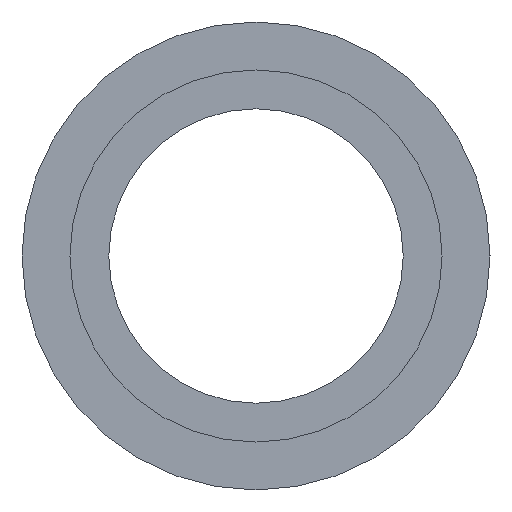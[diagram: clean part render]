
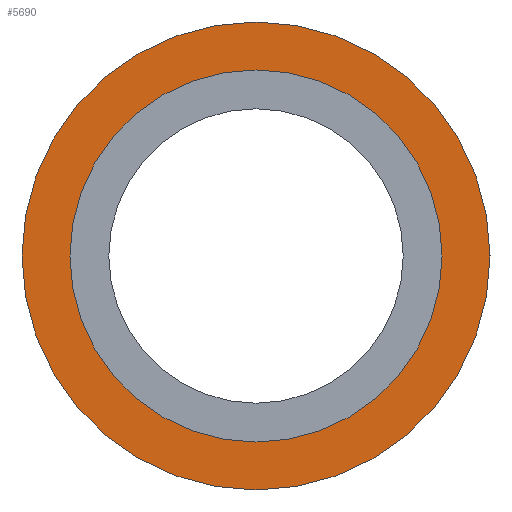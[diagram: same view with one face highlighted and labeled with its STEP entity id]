
A CAD part, left-side view. The second image highlights one B-rep face of the part: STEP entity #5690.
In plain terms, the highlighted planar face has unit normal (-1, 0, 0).
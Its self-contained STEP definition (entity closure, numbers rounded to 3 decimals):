
#100=CARTESIAN_POINT('',(62.312,83.567,0.));
#110=VERTEX_POINT('',#100);
#330=CARTESIAN_POINT('',(62.312,21.567,0.));
#340=VERTEX_POINT('',#330);
#370=CARTESIAN_POINT('',(62.312,52.567,0.));
#380=DIRECTION('',(1.,0.,0.));
#390=DIRECTION('',(0.,-1.,0.));
#400=AXIS2_PLACEMENT_3D('',#370,#380,#390);
#410=CIRCLE('',#400,31.);
#420=EDGE_CURVE('',#110,#340,#410,.T.);
#1700=CARTESIAN_POINT('',(62.312,77.217,0.));
#1710=VERTEX_POINT('',#1700);
#1790=CARTESIAN_POINT('',(62.312,27.917,0.));
#1800=VERTEX_POINT('',#1790);
#1830=CARTESIAN_POINT('',(62.312,52.567,0.));
#1840=DIRECTION('',(-1.,-0.,0.));
#1850=DIRECTION('',(0.,-1.,0.));
#1860=AXIS2_PLACEMENT_3D('',#1830,#1840,#1850);
#1870=CIRCLE('',#1860,24.65);
#1880=EDGE_CURVE('',#1710,#1800,#1870,.T.);
#5540=CARTESIAN_POINT('',(62.312,80.954,0.));
#5550=DIRECTION('',(-1.,0.,0.));
#5560=DIRECTION('',(0.,1.,0.));
#5570=AXIS2_PLACEMENT_3D('',#5540,#5550,#5560);
#5580=PLANE('',#5570);
#5590=EDGE_CURVE('',#1800,#1710,#1870,.T.);
#5600=ORIENTED_EDGE('',*,*,#5590,.F.);
#5610=ORIENTED_EDGE('',*,*,#1880,.F.);
#5620=EDGE_LOOP('',(#5610,#5600));
#5630=FACE_BOUND('',#5620,.T.);
#5640=EDGE_CURVE('',#340,#110,#410,.T.);
#5650=ORIENTED_EDGE('',*,*,#5640,.F.);
#5660=ORIENTED_EDGE('',*,*,#420,.F.);
#5670=EDGE_LOOP('',(#5660,#5650));
#5680=FACE_OUTER_BOUND('',#5670,.T.);
#5690=ADVANCED_FACE('',(#5630,#5680),#5580,.T.);
